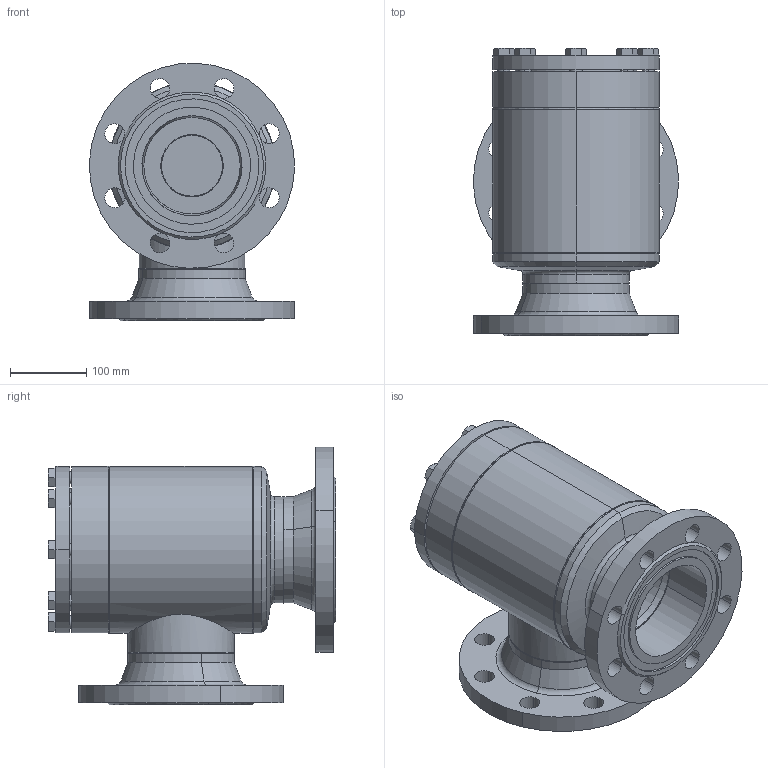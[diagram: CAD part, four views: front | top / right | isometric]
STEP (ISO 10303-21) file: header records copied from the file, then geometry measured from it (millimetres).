
FILE_DESCRIPTION (( 'STEP AP214' ), '1' );
FILE_NAME ('RV28420D20-DN125_DIN-FL-N_PS40.STEP', '2006-04-28T05:30:23', ( 'Herr Grams' ), ( 'AWP GmbH' ), 'SwSTEP 2.0', 'SolidWorks 2002296', '' );
FILE_SCHEMA (( 'AUTOMOTIVE_DESIGN' ));
Length unit declared in the file: millimetre
Products named in the file (17): RV28420D20-DN125_DIN-FL-N_PS40; RV28300E20_Deck+Schr-DN125_Standard; Deckel-kpl28300E20-DN125_Standard; bead-deck283-125_Standard; Scheibe f Deckel28300-DN125_Standard; Buchse f Deckel28300-DN125_Standard; Sechskantschraube-DIN933_M16x 45; Gehäuse-kpl16420-DN125_DIN_PS40_Standard; Kopfstück16300-DN125_Standard; Gehäuse16300-DN125_Standard; Boden16300-DN125_Standard; Rohrstutzen-A16300-DN125_R1_Standard; Flansch-DIN-Nut_PS40_DIN-Flansch-DN125_PS40-Nut; bead-DN125-4_Standard; bead-DN125-3_Standard; bead-DN125-2_Standard; bead-DN125-1_Standard
Assembly tree (24 placements, depth 4):
  RV28420D20-DN125_DIN-FL-N_PS40
    Gehäuse-kpl16420-DN125_DIN_PS40_Standard
      Kopfstück16300-DN125_Standard
      Flansch-DIN-Nut_PS40_DIN-Flansch-DN125_PS40-Nut  x2
      Gehäuse16300-DN125_Standard
      bead-DN125-3_Standard
      bead-DN125-2_Standard
      Boden16300-DN125_Standard
      bead-DN125-4_Standard
      Rohrstutzen-A16300-DN125_R1_Standard
      bead-DN125-1_Standard
    RV28300E20_Deck+Schr-DN125_Standard
      Sechskantschraube-DIN933_M16x 45  x8
      Deckel-kpl28300E20-DN125_Standard
        Scheibe f Deckel28300-DN125_Standard
        Buchse f Deckel28300-DN125_Standard
        bead-deck283-125_Standard
Bounding box: 269.74 x 378 x 338.87 mm (x, y, z)
Volume: 7067919.7 mm3; surface area: 1063717.1 mm2
Topology: 21 solids, 21 shells, 381 faces, 856 edges, 518 vertices
Faces by surface type: cone 128, cylinder 119, plane 110, bspline 18, torus 6
Entity records: 8488 total; most frequent: CARTESIAN_POINT 3806, DIRECTION 850, ORIENTED_EDGE 776, EDGE_CURVE 388, AXIS2_PLACEMENT_3D 374, VERTEX_POINT 244, EDGE_LOOP 220, CIRCLE 194
